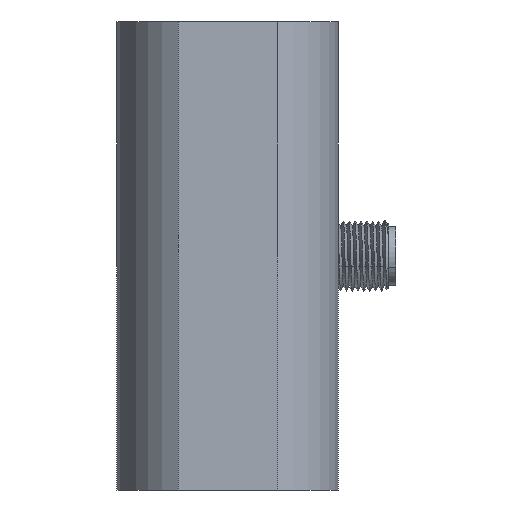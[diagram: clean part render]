
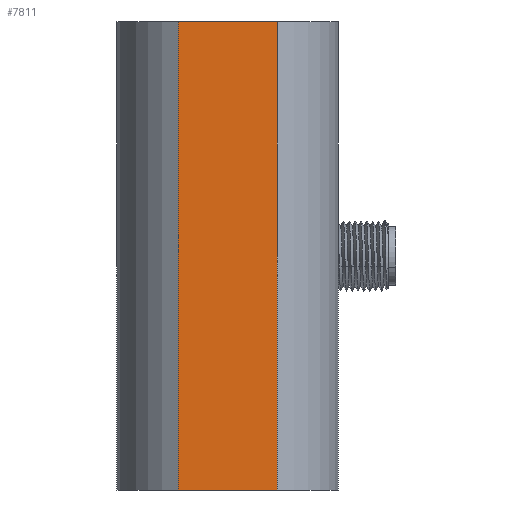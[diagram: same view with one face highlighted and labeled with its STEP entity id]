
A CAD part, front view. The second image highlights one B-rep face of the part: STEP entity #7811.
In plain terms, the highlighted planar face has unit normal (0, -1, 0).
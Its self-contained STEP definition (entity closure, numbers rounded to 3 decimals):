
#5757=FACE_OUTER_BOUND('',#9854,.T.);
#7811=ADVANCED_FACE('',(#5757),#8224,.F.);
#8224=PLANE('',#22691);
#9854=EDGE_LOOP('',(#15102,#15103,#15104,#15105));
#15102=ORIENTED_EDGE('',*,*,#19023,.F.);
#15103=ORIENTED_EDGE('',*,*,#19027,.F.);
#15104=ORIENTED_EDGE('',*,*,#19018,.T.);
#15105=ORIENTED_EDGE('',*,*,#19029,.F.);
#16694=VERTEX_POINT('',#42828);
#16696=VERTEX_POINT('',#42831);
#16699=VERTEX_POINT('',#42839);
#16701=VERTEX_POINT('',#42842);
#19018=EDGE_CURVE('',#16696,#16694,#20069,.T.);
#19023=EDGE_CURVE('',#16699,#16701,#20071,.T.);
#19027=EDGE_CURVE('',#16696,#16699,#20073,.T.);
#19029=EDGE_CURVE('',#16701,#16694,#20075,.T.);
#20069=LINE('',#42830,#21235);
#20071=LINE('',#42841,#21237);
#20073=LINE('',#42849,#21239);
#20075=LINE('',#42852,#21241);
#21235=VECTOR('',#26666,1.);
#21237=VECTOR('',#26676,1.);
#21239=VECTOR('',#26684,1.);
#21241=VECTOR('',#26688,1.);
#22691=AXIS2_PLACEMENT_3D('',#44231,#26758,#26759);
#26666=DIRECTION('',(1.,0.,0.));
#26676=DIRECTION('',(1.,0.,0.));
#26684=DIRECTION('',(0.,0.,1.));
#26688=DIRECTION('',(0.,0.,-1.));
#26758=DIRECTION('',(0.,1.,0.));
#26759=DIRECTION('',(0.,0.,-1.));
#42828=CARTESIAN_POINT('',(8.485,-18.5,103.));
#42830=CARTESIAN_POINT('',(0.,-18.5,103.));
#42831=CARTESIAN_POINT('',(-8.485,-18.5,103.));
#42839=CARTESIAN_POINT('',(-8.485,-18.5,183.));
#42841=CARTESIAN_POINT('',(0.,-18.5,183.));
#42842=CARTESIAN_POINT('',(8.485,-18.5,183.));
#42849=CARTESIAN_POINT('',(-8.485,-18.5,103.));
#42852=CARTESIAN_POINT('',(8.485,-18.5,199.5));
#44231=CARTESIAN_POINT('',(0.,-18.5,143.));
